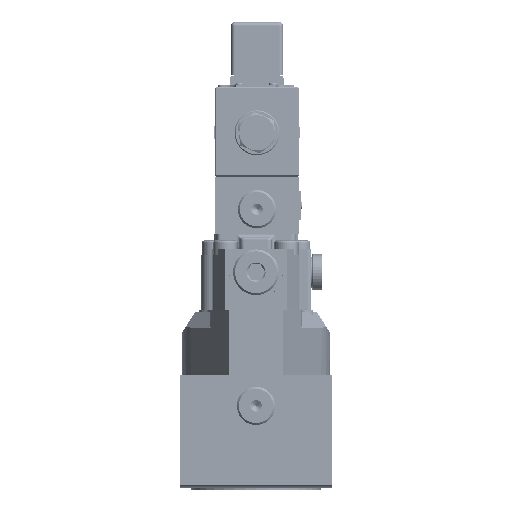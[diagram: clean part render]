
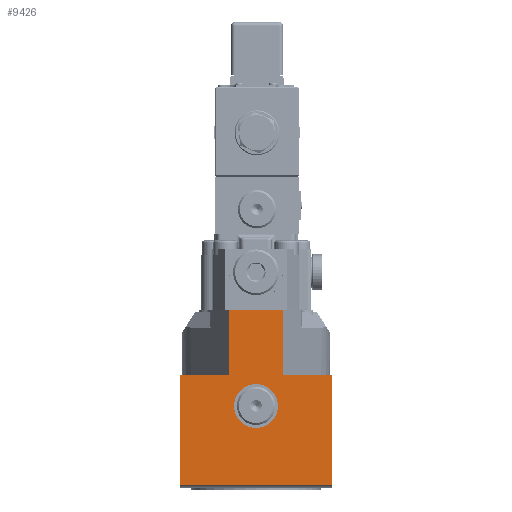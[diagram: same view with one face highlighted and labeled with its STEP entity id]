
A CAD part, left-side view. The second image highlights one B-rep face of the part: STEP entity #9426.
In plain terms, the highlighted planar face has unit normal (-1, 0, 0).
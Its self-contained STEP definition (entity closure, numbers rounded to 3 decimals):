
#3720=LINE('',#126930,#5541);
#3743=LINE('',#126991,#5564);
#3744=LINE('',#126994,#5565);
#3745=LINE('',#126995,#5566);
#3746=LINE('',#126997,#5567);
#3747=LINE('',#126999,#5568);
#3748=LINE('',#127001,#5569);
#3749=LINE('',#127003,#5570);
#5541=VECTOR('',#36988,1.);
#5564=VECTOR('',#37033,1.);
#5565=VECTOR('',#37034,1.);
#5566=VECTOR('',#37035,1.);
#5567=VECTOR('',#37036,1.);
#5568=VECTOR('',#37037,1.);
#5569=VECTOR('',#37038,1.);
#5570=VECTOR('',#37039,1.);
#7370=PLANE('',#30254);
#9426=ADVANCED_FACE('',(#10738,#10739),#7370,.T.);
#10738=FACE_BOUND('',#12817,.T.);
#10739=FACE_BOUND('',#12818,.T.);
#12817=EDGE_LOOP('',(#19222));
#12818=EDGE_LOOP('',(#19223,#19224,#19225,#19226,#19227,#19228,#19229,#19230));
#19222=ORIENTED_EDGE('',*,*,#26060,.F.);
#19223=ORIENTED_EDGE('',*,*,#26061,.F.);
#19224=ORIENTED_EDGE('',*,*,#26062,.T.);
#19225=ORIENTED_EDGE('',*,*,#26031,.F.);
#19226=ORIENTED_EDGE('',*,*,#26063,.T.);
#19227=ORIENTED_EDGE('',*,*,#26064,.F.);
#19228=ORIENTED_EDGE('',*,*,#26065,.F.);
#19229=ORIENTED_EDGE('',*,*,#26066,.T.);
#19230=ORIENTED_EDGE('',*,*,#26067,.F.);
#22589=VERTEX_POINT('',#126931);
#22590=VERTEX_POINT('',#126932);
#22615=VERTEX_POINT('',#126990);
#22616=VERTEX_POINT('',#126992);
#22617=VERTEX_POINT('',#126993);
#22618=VERTEX_POINT('',#126996);
#22619=VERTEX_POINT('',#126998);
#22620=VERTEX_POINT('',#127000);
#22621=VERTEX_POINT('',#127002);
#26031=EDGE_CURVE('',#22589,#22590,#3720,.T.);
#26060=EDGE_CURVE('',#22615,#22615,#27674,.T.);
#26061=EDGE_CURVE('',#22616,#22617,#3743,.T.);
#26062=EDGE_CURVE('',#22616,#22590,#3744,.T.);
#26063=EDGE_CURVE('',#22589,#22618,#3745,.T.);
#26064=EDGE_CURVE('',#22619,#22618,#3746,.T.);
#26065=EDGE_CURVE('',#22620,#22619,#3747,.T.);
#26066=EDGE_CURVE('',#22620,#22621,#3748,.T.);
#26067=EDGE_CURVE('',#22617,#22621,#3749,.T.);
#27674=CIRCLE('',#30253,11.5);
#30253=AXIS2_PLACEMENT_3D('',#126989,#37031,#37032);
#30254=AXIS2_PLACEMENT_3D('',#127004,#37040,#37041);
#36988=DIRECTION('',(0.,1.,0.));
#37031=DIRECTION('',(-1.,0.,0.));
#37032=DIRECTION('',(0.,0.,-1.));
#37033=DIRECTION('',(0.,-1.,0.));
#37034=DIRECTION('',(0.,0.,-1.));
#37035=DIRECTION('',(0.,0.,1.));
#37036=DIRECTION('',(0.,-1.,0.));
#37037=DIRECTION('',(0.,0.,-1.));
#37038=DIRECTION('',(0.,1.,0.));
#37039=DIRECTION('',(0.,0.,1.));
#37040=DIRECTION('',(-1.,0.,0.));
#37041=DIRECTION('',(0.,0.,-1.));
#126930=CARTESIAN_POINT('',(-745.26,136.121,-1.245));
#126931=CARTESIAN_POINT('',(-745.26,-96.932,-1.245));
#126932=CARTESIAN_POINT('',(-745.26,-16.932,-1.245));
#126989=CARTESIAN_POINT('',(-745.26,-56.932,40.));
#126990=CARTESIAN_POINT('',(-745.26,-56.932,28.5));
#126991=CARTESIAN_POINT('',(-745.26,-17.932,56.));
#126992=CARTESIAN_POINT('',(-745.26,-16.932,56.));
#126993=CARTESIAN_POINT('',(-745.26,-42.653,56.));
#126994=CARTESIAN_POINT('',(-745.26,-16.932,47.5));
#126995=CARTESIAN_POINT('',(-745.26,-96.932,47.5));
#126996=CARTESIAN_POINT('',(-745.26,-96.932,56.));
#126997=CARTESIAN_POINT('',(-745.26,-98.332,56.));
#126998=CARTESIAN_POINT('',(-745.26,-71.211,56.));
#126999=CARTESIAN_POINT('',(-745.26,-71.211,56.));
#127000=CARTESIAN_POINT('',(-745.26,-71.211,90.));
#127001=CARTESIAN_POINT('',(-745.26,-98.332,90.));
#127002=CARTESIAN_POINT('',(-745.26,-42.653,90.));
#127003=CARTESIAN_POINT('',(-745.26,-42.653,56.));
#127004=CARTESIAN_POINT('',(-745.26,-56.932,47.5));
